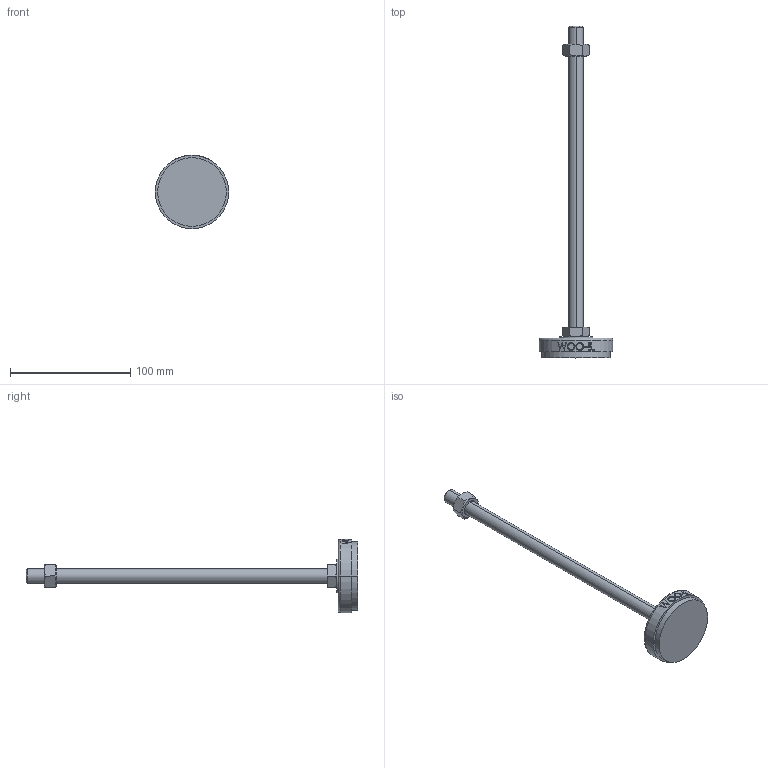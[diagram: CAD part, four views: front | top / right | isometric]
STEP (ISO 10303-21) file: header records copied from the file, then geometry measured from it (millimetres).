
FILE_DESCRIPTION (( 'STEP AP214' ), '1' );
FILE_NAME ('NS61-M12-250.step', '2021-01-11T05:45:07', ( '' ), ( '' ), 'SwSTEP 2.0', 'SolidWorks 2019', '' );
FILE_SCHEMA (( 'AUTOMOTIVE_DESIGN' ));
Length unit declared in the file: millimetre
Products named in the file (2): NS61-M12-250
Bounding box: 61 x 275.5 x 61 mm (x, y, z)
Volume: 79492.5 mm3; surface area: 20771.9 mm2
Topology: 3 solids, 3 shells, 96 faces, 223 edges, 144 vertices
Faces by surface type: plane 48, cylinder 18, bspline 16, cone 12, torus 2
Entity records: 4252 total; most frequent: CARTESIAN_POINT 2127, ORIENTED_EDGE 446, DIRECTION 381, EDGE_CURVE 223, VERTEX_POINT 144, AXIS2_PLACEMENT_3D 142, EDGE_LOOP 109, LINE 97
